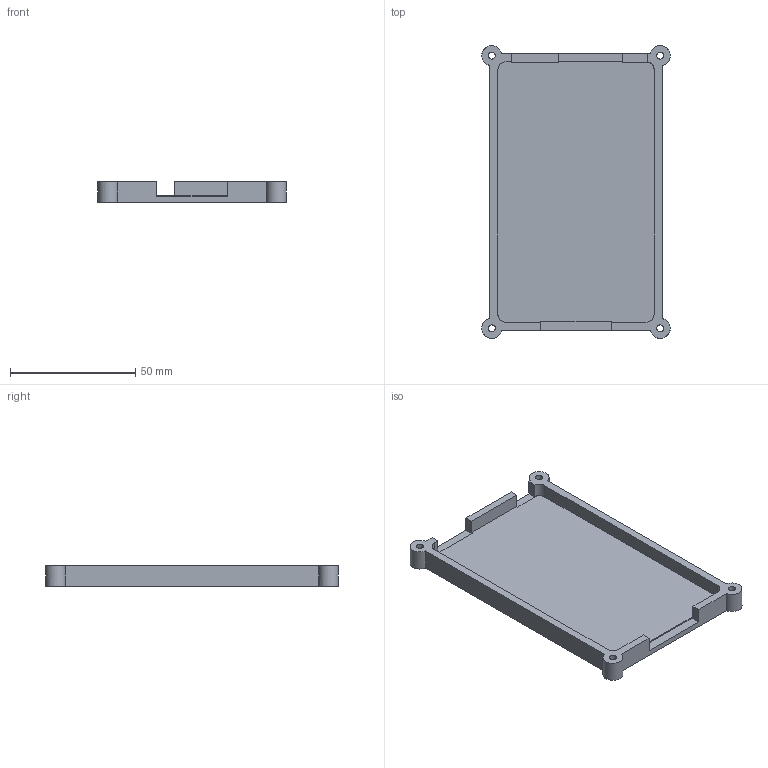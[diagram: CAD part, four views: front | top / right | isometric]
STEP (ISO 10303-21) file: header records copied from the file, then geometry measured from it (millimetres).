
FILE_DESCRIPTION(('SolidCraft model'),'2;1');
FILE_NAME('IPodCaseBack.step','',(''),(''),'SolidCraft','SolidCraft','');
FILE_SCHEMA(('AP242_MANAGED_MODEL_BASED_3D_ENGINEERING_MIM_LF { 1 0 10303 442 1 1 4 }'));
Length unit declared in the file: millimetre
Products named in the file (1): IPodCaseBack
Bounding box: 75.26 x 116.95 x 8.35 mm (x, y, z)
Volume: 27069.7 mm3; surface area: 20321.9 mm2
Topology: 1 solids, 1 shells, 47 faces, 151 edges, 110 vertices
Faces by surface type: plane 31, cylinder 16
Full cylindrical faces by diameter (mm): 2.8 x4, 4.7 x4
Entity records: 1483 total; most frequent: CARTESIAN_POINT 435, ORIENTED_EDGE 302, EDGE_CURVE 151, VERTEX_POINT 110, LINE 91, DIRECTION 60, EDGE_LOOP 59, FACE_BOUND 59
